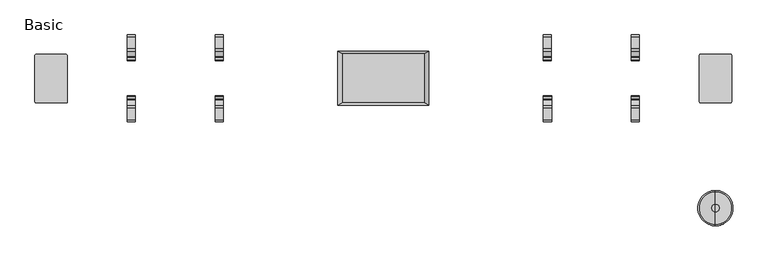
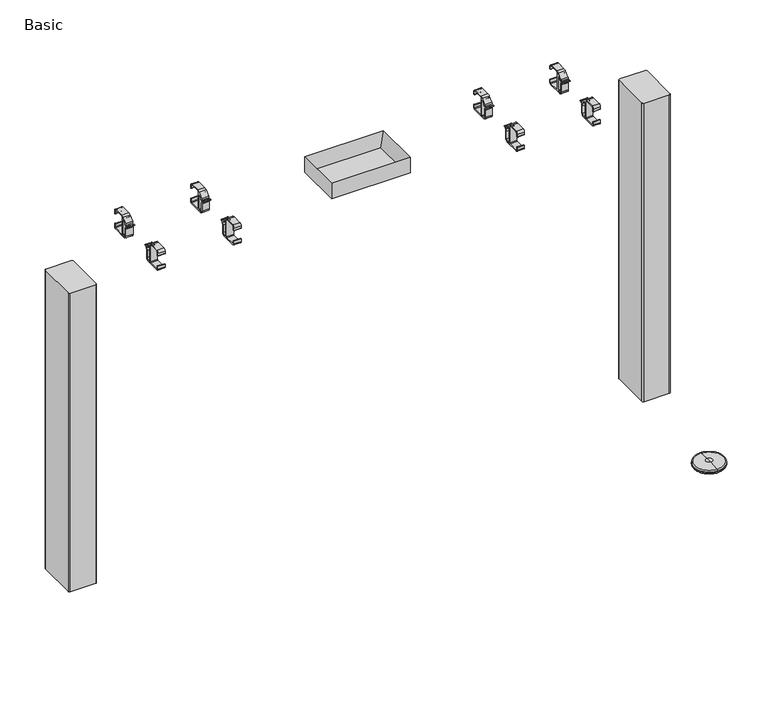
"""IFC4 building model written with IfcOpenShell, lengths in millimetres: furniture geometry, Steelcase Turnstone - Bivi - T Base : Basic."""

from ifc_helpers import new_model, si_unit, point, frame, frame_2d, origin, place, context, project, spatial, polyline, circle_curve, ellipse_curve, trimmed, segment, composite_curve, outline, extrude, faceted_brep, source, transform, mapped, element, save
from ifc_brep_helpers import plane_surface, cylinder_surface, revolved_surface, advanced_brep


def basic_6c72995a(model_context):
    return source(origin(), model_context, "Body", "SolidModel", [
        extrude(outline(composite_curve([segment(trimmed(circle_curve(frame_2d((466.9441449, -139.8062192)), 2.9999955), [point((469.9441404, -139.8062192))], [point((466.9441476, -142.8062147))], False, "CARTESIAN"), True, "CONTINUOUS"), segment(polyline([(466.9441476, -142.8062147), (413.0623335, -142.8062147)]), True, "CONTINUOUS"), segment(trimmed(circle_curve(frame_2d((413.0623308, -139.8062267)), 2.9999881), [point((413.0623335, -142.8062147))], [point((410.0623427, -139.8062267))], False, "CARTESIAN"), True, "CONTINUOUS"), segment(polyline([(410.0623427, -139.8062267), (410.0623427, -55.8062406)]), True, "CONTINUOUS"), segment(trimmed(circle_curve(frame_2d((413.0623507, -55.8062406)), 3.0000079), [point((410.0623427, -55.8062406))], [point((413.0623441, -52.8062327))], False, "CARTESIAN"), True, "CONTINUOUS"), segment(polyline([(413.0623441, -52.8062327), (466.944164, -52.8062327)]), True, "CONTINUOUS"), segment(trimmed(circle_curve(frame_2d((466.944164, -55.8062091)), 2.9999764), [point((466.944164, -52.8062327))], [point((469.9441404, -55.8062091))], False, "CARTESIAN"), True, "CONTINUOUS"), segment(polyline([(469.9441404, -55.8062091), (469.9441404, -139.8062192)]), True, "CONTINUOUS")], self_intersect=False)), frame((0.0, 0.0, 32.9997018), z_axis=(0.0, 0.0, 1.0), x_axis=(1.0, 0.0, 0.0)), (0.0, 0.0, 1.0), 673.400907),
        extrude(outline(composite_curve([segment(polyline([(-814.2431554, -140.2273439), (-814.2431508, -55.5044156)]), True, "CONTINUOUS"), segment(trimmed(circle_curve(frame_2d((-811.5449196, -55.5044158)), 2.6982312), [point((-814.2431508, -55.5044156))], [point((-811.5449196, -52.8061846))], False, "CARTESIAN"), True, "CONTINUOUS"), segment(polyline([(-811.5449196, -52.8061846), (-758.6162966, -52.8061846)]), True, "CONTINUOUS"), segment(trimmed(circle_curve(frame_2d((-758.6162966, -57.1799025)), 4.3737179), [point((-758.6162966, -52.8061846))], [point((-754.2425787, -57.1799025))], False, "CARTESIAN"), True, "CONTINUOUS"), segment(polyline([(-754.2425787, -57.1799025), (-754.2425787, -140.352824)]), True, "CONTINUOUS"), segment(trimmed(circle_curve(frame_2d((-756.8432707, -140.2011003)), 2.605114), [point((-754.2425787, -140.352824))], [point((-756.8432707, -142.8062143))], False, "CARTESIAN"), True, "CONTINUOUS"), segment(polyline([(-756.8432707, -142.8062143), (-811.6642851, -142.8062143)]), True, "CONTINUOUS"), segment(trimmed(circle_curve(frame_2d((-811.6642851, -140.227344)), 2.5788703), [point((-811.6642851, -142.8062143))], [point((-814.2431554, -140.2273439))], False, "CARTESIAN"), True, "CONTINUOUS")], self_intersect=False)), frame((0.0, 0.0, 32.9997018), z_axis=(0.0, 0.0, 1.0), x_axis=(1.0, 0.0, 0.0)), (0.0, 0.0, 1.0), 673.400907),
        extrude(outline(composite_curve([segment(trimmed(circle_curve(frame_2d((-65.7391624, 742.1239361)), 6.2415612), [point((-59.4976013, 742.1239361))], [point((-64.5659326, 748.2542393))], True, "CARTESIAN"), True, "CONTINUOUS"), segment(trimmed(circle_curve(frame_2d((-64.3721846, 749.2666017)), 1.0307357), [point((-64.5659326, 748.2542393))], [point((-64.1869392, 750.2805545))], False, "CARTESIAN"), True, "CONTINUOUS"), segment(trimmed(circle_curve(frame_2d((-65.6771233, 742.1239361)), 8.2916266), [point((-64.1869392, 750.2805545))], [point((-57.3854967, 742.1239361))], False, "CARTESIAN"), True, "CONTINUOUS"), segment(polyline([(-57.3854967, 742.1239361), (-57.3854967, 725.3624107)]), True, "CONTINUOUS"), segment(trimmed(circle_curve(frame_2d((-53.4972048, 725.3624107)), 3.8882919), [point((-57.3854967, 725.3624107))], [point((-53.4414787, 721.4745182))], True, "CARTESIAN"), True, "CONTINUOUS"), segment(polyline([(-53.4414787, 721.4745182), (-48.5753711, 721.4745182)]), True, "CONTINUOUS"), segment(trimmed(circle_curve(frame_2d((-48.5753711, 722.558435)), 1.0839168), [point((-48.5753711, 721.4745182))], [point((-47.4914543, 722.558435))], True, "CARTESIAN"), True, "CONTINUOUS"), segment(polyline([(-47.4914543, 722.558435), (-47.4914543, 756.2135585)]), True, "CONTINUOUS"), segment(trimmed(circle_curve(frame_2d((-49.0315964, 756.2135585)), 1.5401421), [point((-47.4914543, 756.2135585))], [point((-50.0681586, 757.3526706))], True, "CARTESIAN"), True, "CONTINUOUS"), segment(polyline([(-50.0681586, 757.3526706), (-54.4475369, 753.3675508)]), True, "CONTINUOUS"), segment(trimmed(circle_curve(frame_2d((-53.8610141, 752.7230017)), 0.8714657), [point((-54.4475369, 753.3675508))], [point((-54.6447876, 752.342014))], True, "CARTESIAN"), True, "CONTINUOUS"), segment(trimmed(circle_curve(frame_2d((-56.5369304, 751.4222544)), 2.1038446), [point((-54.6447876, 752.342014))], [point((-57.8009025, 753.1040798))], False, "CARTESIAN"), True, "CONTINUOUS"), segment(polyline([(-57.8009025, 753.1040798), (-48.4315057, 761.5182067)]), True, "CONTINUOUS"), segment(trimmed(circle_curve(frame_2d((-43.0316889, 755.5053397)), 8.0816206), [point((-48.4315057, 761.5182067))], [point((-43.0316889, 763.5869603))], False, "CARTESIAN"), True, "CONTINUOUS"), segment(polyline([(-43.0316889, 763.5869603), (-21.684555, 763.5869603)]), True, "CONTINUOUS"), segment(trimmed(circle_curve(frame_2d((-22.1935929, 758.8624493)), 4.7518548), [point((-21.684555, 763.5869603))], [point((-17.4417381, 758.8624493))], False, "CARTESIAN"), True, "CONTINUOUS"), segment(polyline([(-17.4417381, 758.8624493), (-17.4417381, 753.5063472)]), True, "CONTINUOUS"), segment(trimmed(circle_curve(frame_2d((-18.5067894, 753.5063472)), 1.0650513), [point((-17.4417381, 753.5063472))], [point((-19.5718406, 753.5063472))], False, "CARTESIAN"), True, "CONTINUOUS"), segment(polyline([(-19.5718406, 753.5063472), (-19.5718406, 759.3038862)]), True, "CONTINUOUS"), segment(trimmed(circle_curve(frame_2d((-22.6679544, 759.3038862)), 3.0961138), [point((-19.5718406, 759.3038862))], [point((-22.6679544, 762.4))], True, "CARTESIAN"), True, "CONTINUOUS"), segment(polyline([(-22.6679544, 762.4), (-43.0035831, 762.4)]), True, "CONTINUOUS"), segment(trimmed(circle_curve(frame_2d((-43.0035831, 759.897389)), 2.502611), [point((-43.0035831, 762.4))], [point((-45.5061941, 759.897389))], True, "CARTESIAN"), True, "CONTINUOUS"), segment(polyline([(-45.5061941, 759.897389), (-45.5061941, 722.9613964)]), True, "CONTINUOUS"), segment(trimmed(circle_curve(frame_2d((-44.0445082, 722.9613964)), 1.4616859), [point((-45.5061941, 722.9613964))], [point((-44.0445082, 721.4997105))], True, "CARTESIAN"), True, "CONTINUOUS"), segment(polyline([(-44.0445082, 721.4997105), (-21.0231187, 721.4997105)]), True, "CONTINUOUS"), segment(trimmed(circle_curve(frame_2d((-21.0231187, 722.9509885)), 1.451278), [point((-21.0231187, 721.4997105))], [point((-19.5718406, 722.9509885))], True, "CARTESIAN"), True, "CONTINUOUS"), segment(polyline([(-19.5718406, 722.9509885), (-19.5718406, 729.2789837), (-17.4417381, 729.2789837), (-17.4417381, 723.3602118)]), True, "CONTINUOUS"), segment(trimmed(circle_curve(frame_2d((-21.439512, 723.3602118)), 3.997774), [point((-17.4417381, 723.3602118))], [point((-21.439512, 719.3624378))], False, "CARTESIAN"), True, "CONTINUOUS"), segment(polyline([(-21.439512, 719.3624378), (-53.4414787, 719.3624378)]), True, "CONTINUOUS"), segment(trimmed(circle_curve(frame_2d((-53.4414787, 725.4188231)), 6.0563853), [point((-53.4414787, 719.3624378))], [point((-59.4976013, 725.3624107))], False, "CARTESIAN"), True, "CONTINUOUS"), segment(polyline([(-59.4976013, 725.3624107), (-59.4976013, 742.1239361)]), True, "CONTINUOUS")], self_intersect=False)), frame((-644.2435707, 0.0, 0.0), z_axis=(1.0, 0.0, 0.0), x_axis=(0.0, 1.0, 0.0)), (0.0, 0.0, 1.0), 15.24),
        extrude(outline(composite_curve([segment(polyline([(-135.6005693, 742.1239361), (-135.6005693, 725.3624107)]), True, "CONTINUOUS"), segment(trimmed(circle_curve(frame_2d((-141.6566919, 725.4188231)), 6.0563853), [point((-135.6005693, 725.3624107))], [point((-141.6566919, 719.3624378))], False, "CARTESIAN"), True, "CONTINUOUS"), segment(polyline([(-141.6566919, 719.3624378), (-173.6586586, 719.3624378)]), True, "CONTINUOUS"), segment(trimmed(circle_curve(frame_2d((-173.6586586, 723.3602118)), 3.997774), [point((-173.6586586, 719.3624378))], [point((-177.6564325, 723.3602118))], False, "CARTESIAN"), True, "CONTINUOUS"), segment(polyline([(-177.6564325, 723.3602118), (-177.6564325, 729.2789837), (-175.52633, 729.2789837), (-175.52633, 722.9509885)]), True, "CONTINUOUS"), segment(trimmed(circle_curve(frame_2d((-174.0750519, 722.9509885)), 1.451278), [point((-175.52633, 722.9509885))], [point((-174.0750519, 721.4997105))], True, "CARTESIAN"), True, "CONTINUOUS"), segment(polyline([(-174.0750519, 721.4997105), (-151.0536624, 721.4997105)]), True, "CONTINUOUS"), segment(trimmed(circle_curve(frame_2d((-151.0536624, 722.9613964)), 1.4616859), [point((-151.0536624, 721.4997105))], [point((-149.5919765, 722.9613964))], True, "CARTESIAN"), True, "CONTINUOUS"), segment(polyline([(-149.5919765, 722.9613964), (-149.5919765, 759.897389)]), True, "CONTINUOUS"), segment(trimmed(circle_curve(frame_2d((-152.0945875, 759.897389)), 2.502611), [point((-149.5919765, 759.897389))], [point((-152.0945875, 762.4))], True, "CARTESIAN"), True, "CONTINUOUS"), segment(polyline([(-152.0945875, 762.4), (-172.4302162, 762.4)]), True, "CONTINUOUS"), segment(trimmed(circle_curve(frame_2d((-172.4302162, 759.3038862)), 3.0961138), [point((-172.4302162, 762.4))], [point((-175.52633, 759.3038862))], True, "CARTESIAN"), True, "CONTINUOUS"), segment(polyline([(-175.52633, 759.3038862), (-175.52633, 753.5063472)]), True, "CONTINUOUS"), segment(trimmed(circle_curve(frame_2d((-176.5913812, 753.5063472)), 1.0650513), [point((-175.52633, 753.5063472))], [point((-177.6564325, 753.5063472))], False, "CARTESIAN"), True, "CONTINUOUS"), segment(polyline([(-177.6564325, 753.5063472), (-177.6564325, 758.8624493)]), True, "CONTINUOUS"), segment(trimmed(circle_curve(frame_2d((-172.9045777, 758.8624493)), 4.7518548), [point((-177.6564325, 758.8624493))], [point((-173.4136156, 763.5869603))], False, "CARTESIAN"), True, "CONTINUOUS"), segment(polyline([(-173.4136156, 763.5869603), (-152.0664817, 763.5869603)]), True, "CONTINUOUS"), segment(trimmed(circle_curve(frame_2d((-152.0664817, 755.5053397)), 8.0816206), [point((-152.0664817, 763.5869603))], [point((-146.6666649, 761.5182067))], False, "CARTESIAN"), True, "CONTINUOUS"), segment(polyline([(-146.6666649, 761.5182067), (-137.2972681, 753.1040798)]), True, "CONTINUOUS"), segment(trimmed(circle_curve(frame_2d((-138.5612402, 751.4222544)), 2.1038446), [point((-137.2972681, 753.1040798))], [point((-140.453383, 752.342014))], False, "CARTESIAN"), True, "CONTINUOUS"), segment(trimmed(circle_curve(frame_2d((-141.2371565, 752.7230017)), 0.8714657), [point((-140.453383, 752.342014))], [point((-140.6506337, 753.3675508))], True, "CARTESIAN"), True, "CONTINUOUS"), segment(polyline([(-140.6506337, 753.3675508), (-145.030012, 757.3526706)]), True, "CONTINUOUS"), segment(trimmed(circle_curve(frame_2d((-146.0665742, 756.2135585)), 1.5401421), [point((-145.030012, 757.3526706))], [point((-147.6067163, 756.2135585))], True, "CARTESIAN"), True, "CONTINUOUS"), segment(polyline([(-147.6067163, 756.2135585), (-147.6067163, 722.558435)]), True, "CONTINUOUS"), segment(trimmed(circle_curve(frame_2d((-146.5227995, 722.558435)), 1.0839168), [point((-147.6067163, 722.558435))], [point((-146.5227995, 721.4745182))], True, "CARTESIAN"), True, "CONTINUOUS"), segment(polyline([(-146.5227995, 721.4745182), (-141.6566919, 721.4745182)]), True, "CONTINUOUS"), segment(trimmed(circle_curve(frame_2d((-141.6009658, 725.3624107)), 3.8882919), [point((-141.6566919, 721.4745182))], [point((-137.7126739, 725.3624107))], True, "CARTESIAN"), True, "CONTINUOUS"), segment(polyline([(-137.7126739, 725.3624107), (-137.7126739, 742.1239361)]), True, "CONTINUOUS"), segment(trimmed(circle_curve(frame_2d((-129.4210473, 742.1239361)), 8.2916266), [point((-137.7126739, 742.1239361))], [point((-130.9112314, 750.2805545))], False, "CARTESIAN"), True, "CONTINUOUS"), segment(trimmed(circle_curve(frame_2d((-130.725986, 749.2666017)), 1.0307357), [point((-130.9112314, 750.2805545))], [point((-130.532238, 748.2542393))], False, "CARTESIAN"), True, "CONTINUOUS"), segment(trimmed(circle_curve(frame_2d((-129.3590082, 742.1239361)), 6.2415612), [point((-130.532238, 748.2542393))], [point((-135.6005693, 742.1239361))], True, "CARTESIAN"), True, "CONTINUOUS")], self_intersect=False)), frame((-644.2435707, 0.0, 0.0), z_axis=(1.0, 0.0, 0.0), x_axis=(0.0, 1.0, 0.0)), (0.0, 0.0, 1.0), 15.24),
        extrude(outline(composite_curve([segment(trimmed(circle_curve(frame_2d((-65.7391624, 742.1239361)), 6.2415612), [point((-59.4976013, 742.1239361))], [point((-64.5659326, 748.2542393))], True, "CARTESIAN"), True, "CONTINUOUS"), segment(trimmed(circle_curve(frame_2d((-64.3721846, 749.2666017)), 1.0307357), [point((-64.5659326, 748.2542393))], [point((-64.1869392, 750.2805545))], False, "CARTESIAN"), True, "CONTINUOUS"), segment(trimmed(circle_curve(frame_2d((-65.6771233, 742.1239361)), 8.2916266), [point((-64.1869392, 750.2805545))], [point((-57.3854967, 742.1239361))], False, "CARTESIAN"), True, "CONTINUOUS"), segment(polyline([(-57.3854967, 742.1239361), (-57.3854967, 725.3624107)]), True, "CONTINUOUS"), segment(trimmed(circle_curve(frame_2d((-53.4972048, 725.3624107)), 3.8882919), [point((-57.3854967, 725.3624107))], [point((-53.4414787, 721.4745182))], True, "CARTESIAN"), True, "CONTINUOUS"), segment(polyline([(-53.4414787, 721.4745182), (-48.5753711, 721.4745182)]), True, "CONTINUOUS"), segment(trimmed(circle_curve(frame_2d((-48.5753711, 722.558435)), 1.0839168), [point((-48.5753711, 721.4745182))], [point((-47.4914543, 722.558435))], True, "CARTESIAN"), True, "CONTINUOUS"), segment(polyline([(-47.4914543, 722.558435), (-47.4914543, 756.2135585)]), True, "CONTINUOUS"), segment(trimmed(circle_curve(frame_2d((-49.0315964, 756.2135585)), 1.5401421), [point((-47.4914543, 756.2135585))], [point((-50.0681586, 757.3526706))], True, "CARTESIAN"), True, "CONTINUOUS"), segment(polyline([(-50.0681586, 757.3526706), (-54.4475369, 753.3675508)]), True, "CONTINUOUS"), segment(trimmed(circle_curve(frame_2d((-53.8610141, 752.7230017)), 0.8714657), [point((-54.4475369, 753.3675508))], [point((-54.6447876, 752.342014))], True, "CARTESIAN"), True, "CONTINUOUS"), segment(trimmed(circle_curve(frame_2d((-56.5369304, 751.4222544)), 2.1038446), [point((-54.6447876, 752.342014))], [point((-57.8009025, 753.1040798))], False, "CARTESIAN"), True, "CONTINUOUS"), segment(polyline([(-57.8009025, 753.1040798), (-48.4315057, 761.5182067)]), True, "CONTINUOUS"), segment(trimmed(circle_curve(frame_2d((-43.0316889, 755.5053397)), 8.0816206), [point((-48.4315057, 761.5182067))], [point((-43.0316889, 763.5869603))], False, "CARTESIAN"), True, "CONTINUOUS"), segment(polyline([(-43.0316889, 763.5869603), (-21.684555, 763.5869603)]), True, "CONTINUOUS"), segment(trimmed(circle_curve(frame_2d((-22.1935929, 758.8624493)), 4.7518548), [point((-21.684555, 763.5869603))], [point((-17.4417381, 758.8624493))], False, "CARTESIAN"), True, "CONTINUOUS"), segment(polyline([(-17.4417381, 758.8624493), (-17.4417381, 753.5063472)]), True, "CONTINUOUS"), segment(trimmed(circle_curve(frame_2d((-18.5067894, 753.5063472)), 1.0650513), [point((-17.4417381, 753.5063472))], [point((-19.5718406, 753.5063472))], False, "CARTESIAN"), True, "CONTINUOUS"), segment(polyline([(-19.5718406, 753.5063472), (-19.5718406, 759.3038862)]), True, "CONTINUOUS"), segment(trimmed(circle_curve(frame_2d((-22.6679544, 759.3038862)), 3.0961138), [point((-19.5718406, 759.3038862))], [point((-22.6679544, 762.4))], True, "CARTESIAN"), True, "CONTINUOUS"), segment(polyline([(-22.6679544, 762.4), (-43.0035831, 762.4)]), True, "CONTINUOUS"), segment(trimmed(circle_curve(frame_2d((-43.0035831, 759.897389)), 2.502611), [point((-43.0035831, 762.4))], [point((-45.5061941, 759.897389))], True, "CARTESIAN"), True, "CONTINUOUS"), segment(polyline([(-45.5061941, 759.897389), (-45.5061941, 722.9613964)]), True, "CONTINUOUS"), segment(trimmed(circle_curve(frame_2d((-44.0445082, 722.9613964)), 1.4616859), [point((-45.5061941, 722.9613964))], [point((-44.0445082, 721.4997105))], True, "CARTESIAN"), True, "CONTINUOUS"), segment(polyline([(-44.0445082, 721.4997105), (-21.0231187, 721.4997105)]), True, "CONTINUOUS"), segment(trimmed(circle_curve(frame_2d((-21.0231187, 722.9509885)), 1.451278), [point((-21.0231187, 721.4997105))], [point((-19.5718406, 722.9509885))], True, "CARTESIAN"), True, "CONTINUOUS"), segment(polyline([(-19.5718406, 722.9509885), (-19.5718406, 729.2789837), (-17.4417381, 729.2789837), (-17.4417381, 723.3602118)]), True, "CONTINUOUS"), segment(trimmed(circle_curve(frame_2d((-21.439512, 723.3602118)), 3.997774), [point((-17.4417381, 723.3602118))], [point((-21.439512, 719.3624378))], False, "CARTESIAN"), True, "CONTINUOUS"), segment(polyline([(-21.439512, 719.3624378), (-53.4414787, 719.3624378)]), True, "CONTINUOUS"), segment(trimmed(circle_curve(frame_2d((-53.4414787, 725.4188231)), 6.0563853), [point((-53.4414787, 719.3624378))], [point((-59.4976013, 725.3624107))], False, "CARTESIAN"), True, "CONTINUOUS"), segment(polyline([(-59.4976013, 725.3624107), (-59.4976013, 742.1239361)]), True, "CONTINUOUS")], self_intersect=False)), frame((-481.9950023, 0.0, 0.0), z_axis=(1.0, 0.0, 0.0), x_axis=(0.0, 1.0, 0.0)), (0.0, 0.0, 1.0), 15.24),
        extrude(outline(composite_curve([segment(polyline([(-135.6005693, 742.1239361), (-135.6005693, 725.3624107)]), True, "CONTINUOUS"), segment(trimmed(circle_curve(frame_2d((-141.6566919, 725.4188231)), 6.0563853), [point((-135.6005693, 725.3624107))], [point((-141.6566919, 719.3624378))], False, "CARTESIAN"), True, "CONTINUOUS"), segment(polyline([(-141.6566919, 719.3624378), (-173.6586586, 719.3624378)]), True, "CONTINUOUS"), segment(trimmed(circle_curve(frame_2d((-173.6586586, 723.3602118)), 3.997774), [point((-173.6586586, 719.3624378))], [point((-177.6564325, 723.3602118))], False, "CARTESIAN"), True, "CONTINUOUS"), segment(polyline([(-177.6564325, 723.3602118), (-177.6564325, 729.2789837), (-175.52633, 729.2789837), (-175.52633, 722.9509885)]), True, "CONTINUOUS"), segment(trimmed(circle_curve(frame_2d((-174.0750519, 722.9509885)), 1.451278), [point((-175.52633, 722.9509885))], [point((-174.0750519, 721.4997105))], True, "CARTESIAN"), True, "CONTINUOUS"), segment(polyline([(-174.0750519, 721.4997105), (-151.0536624, 721.4997105)]), True, "CONTINUOUS"), segment(trimmed(circle_curve(frame_2d((-151.0536624, 722.9613964)), 1.4616859), [point((-151.0536624, 721.4997105))], [point((-149.5919765, 722.9613964))], True, "CARTESIAN"), True, "CONTINUOUS"), segment(polyline([(-149.5919765, 722.9613964), (-149.5919765, 759.897389)]), True, "CONTINUOUS"), segment(trimmed(circle_curve(frame_2d((-152.0945875, 759.897389)), 2.502611), [point((-149.5919765, 759.897389))], [point((-152.0945875, 762.4))], True, "CARTESIAN"), True, "CONTINUOUS"), segment(polyline([(-152.0945875, 762.4), (-172.4302162, 762.4)]), True, "CONTINUOUS"), segment(trimmed(circle_curve(frame_2d((-172.4302162, 759.3038862)), 3.0961138), [point((-172.4302162, 762.4))], [point((-175.52633, 759.3038862))], True, "CARTESIAN"), True, "CONTINUOUS"), segment(polyline([(-175.52633, 759.3038862), (-175.52633, 753.5063472)]), True, "CONTINUOUS"), segment(trimmed(circle_curve(frame_2d((-176.5913812, 753.5063472)), 1.0650513), [point((-175.52633, 753.5063472))], [point((-177.6564325, 753.5063472))], False, "CARTESIAN"), True, "CONTINUOUS"), segment(polyline([(-177.6564325, 753.5063472), (-177.6564325, 758.8624493)]), True, "CONTINUOUS"), segment(trimmed(circle_curve(frame_2d((-172.9045777, 758.8624493)), 4.7518548), [point((-177.6564325, 758.8624493))], [point((-173.4136156, 763.5869603))], False, "CARTESIAN"), True, "CONTINUOUS"), segment(polyline([(-173.4136156, 763.5869603), (-152.0664817, 763.5869603)]), True, "CONTINUOUS"), segment(trimmed(circle_curve(frame_2d((-152.0664817, 755.5053397)), 8.0816206), [point((-152.0664817, 763.5869603))], [point((-146.6666649, 761.5182067))], False, "CARTESIAN"), True, "CONTINUOUS"), segment(polyline([(-146.6666649, 761.5182067), (-137.2972681, 753.1040798)]), True, "CONTINUOUS"), segment(trimmed(circle_curve(frame_2d((-138.5612402, 751.4222544)), 2.1038446), [point((-137.2972681, 753.1040798))], [point((-140.453383, 752.342014))], False, "CARTESIAN"), True, "CONTINUOUS"), segment(trimmed(circle_curve(frame_2d((-141.2371565, 752.7230017)), 0.8714657), [point((-140.453383, 752.342014))], [point((-140.6506337, 753.3675508))], True, "CARTESIAN"), True, "CONTINUOUS"), segment(polyline([(-140.6506337, 753.3675508), (-145.030012, 757.3526706)]), True, "CONTINUOUS"), segment(trimmed(circle_curve(frame_2d((-146.0665742, 756.2135585)), 1.5401421), [point((-145.030012, 757.3526706))], [point((-147.6067163, 756.2135585))], True, "CARTESIAN"), True, "CONTINUOUS"), segment(polyline([(-147.6067163, 756.2135585), (-147.6067163, 722.558435)]), True, "CONTINUOUS"), segment(trimmed(circle_curve(frame_2d((-146.5227995, 722.558435)), 1.0839168), [point((-147.6067163, 722.558435))], [point((-146.5227995, 721.4745182))], True, "CARTESIAN"), True, "CONTINUOUS"), segment(polyline([(-146.5227995, 721.4745182), (-141.6566919, 721.4745182)]), True, "CONTINUOUS"), segment(trimmed(circle_curve(frame_2d((-141.6009658, 725.3624107)), 3.8882919), [point((-141.6566919, 721.4745182))], [point((-137.7126739, 725.3624107))], True, "CARTESIAN"), True, "CONTINUOUS"), segment(polyline([(-137.7126739, 725.3624107), (-137.7126739, 742.1239361)]), True, "CONTINUOUS"), segment(trimmed(circle_curve(frame_2d((-129.4210473, 742.1239361)), 8.2916266), [point((-137.7126739, 742.1239361))], [point((-130.9112314, 750.2805545))], False, "CARTESIAN"), True, "CONTINUOUS"), segment(trimmed(circle_curve(frame_2d((-130.725986, 749.2666017)), 1.0307357), [point((-130.9112314, 750.2805545))], [point((-130.532238, 748.2542393))], False, "CARTESIAN"), True, "CONTINUOUS"), segment(trimmed(circle_curve(frame_2d((-129.3590082, 742.1239361)), 6.2415612), [point((-130.532238, 748.2542393))], [point((-135.6005693, 742.1239361))], True, "CARTESIAN"), True, "CONTINUOUS")], self_intersect=False)), frame((-481.9950023, 0.0, 0.0), z_axis=(1.0, 0.0, 0.0), x_axis=(0.0, 1.0, 0.0)), (0.0, 0.0, 1.0), 15.24),
        extrude(outline(composite_curve([segment(trimmed(circle_curve(frame_2d((-65.7391624, 742.1239361)), 6.2415612), [point((-59.4976013, 742.1239361))], [point((-64.5659326, 748.2542393))], True, "CARTESIAN"), True, "CONTINUOUS"), segment(trimmed(circle_curve(frame_2d((-64.3721846, 749.2666017)), 1.0307357), [point((-64.5659326, 748.2542393))], [point((-64.1869392, 750.2805545))], False, "CARTESIAN"), True, "CONTINUOUS"), segment(trimmed(circle_curve(frame_2d((-65.6771233, 742.1239361)), 8.2916266), [point((-64.1869392, 750.2805545))], [point((-57.3854967, 742.1239361))], False, "CARTESIAN"), True, "CONTINUOUS"), segment(polyline([(-57.3854967, 742.1239361), (-57.3854967, 725.3624107)]), True, "CONTINUOUS"), segment(trimmed(circle_curve(frame_2d((-53.4972048, 725.3624107)), 3.8882919), [point((-57.3854967, 725.3624107))], [point((-53.4414787, 721.4745182))], True, "CARTESIAN"), True, "CONTINUOUS"), segment(polyline([(-53.4414787, 721.4745182), (-48.5753711, 721.4745182)]), True, "CONTINUOUS"), segment(trimmed(circle_curve(frame_2d((-48.5753711, 722.558435)), 1.0839168), [point((-48.5753711, 721.4745182))], [point((-47.4914543, 722.558435))], True, "CARTESIAN"), True, "CONTINUOUS"), segment(polyline([(-47.4914543, 722.558435), (-47.4914543, 756.2135585)]), True, "CONTINUOUS"), segment(trimmed(circle_curve(frame_2d((-49.0315964, 756.2135585)), 1.5401421), [point((-47.4914543, 756.2135585))], [point((-50.0681586, 757.3526706))], True, "CARTESIAN"), True, "CONTINUOUS"), segment(polyline([(-50.0681586, 757.3526706), (-54.4475369, 753.3675508)]), True, "CONTINUOUS"), segment(trimmed(circle_curve(frame_2d((-53.8610141, 752.7230017)), 0.8714657), [point((-54.4475369, 753.3675508))], [point((-54.6447876, 752.342014))], True, "CARTESIAN"), True, "CONTINUOUS"), segment(trimmed(circle_curve(frame_2d((-56.5369304, 751.4222544)), 2.1038446), [point((-54.6447876, 752.342014))], [point((-57.8009025, 753.1040798))], False, "CARTESIAN"), True, "CONTINUOUS"), segment(polyline([(-57.8009025, 753.1040798), (-48.4315057, 761.5182067)]), True, "CONTINUOUS"), segment(trimmed(circle_curve(frame_2d((-43.0316889, 755.5053397)), 8.0816206), [point((-48.4315057, 761.5182067))], [point((-43.0316889, 763.5869603))], False, "CARTESIAN"), True, "CONTINUOUS"), segment(polyline([(-43.0316889, 763.5869603), (-21.684555, 763.5869603)]), True, "CONTINUOUS"), segment(trimmed(circle_curve(frame_2d((-22.1935929, 758.8624493)), 4.7518548), [point((-21.684555, 763.5869603))], [point((-17.4417381, 758.8624493))], False, "CARTESIAN"), True, "CONTINUOUS"), segment(polyline([(-17.4417381, 758.8624493), (-17.4417381, 753.5063472)]), True, "CONTINUOUS"), segment(trimmed(circle_curve(frame_2d((-18.5067894, 753.5063472)), 1.0650513), [point((-17.4417381, 753.5063472))], [point((-19.5718406, 753.5063472))], False, "CARTESIAN"), True, "CONTINUOUS"), segment(polyline([(-19.5718406, 753.5063472), (-19.5718406, 759.3038862)]), True, "CONTINUOUS"), segment(trimmed(circle_curve(frame_2d((-22.6679544, 759.3038862)), 3.0961138), [point((-19.5718406, 759.3038862))], [point((-22.6679544, 762.4))], True, "CARTESIAN"), True, "CONTINUOUS"), segment(polyline([(-22.6679544, 762.4), (-43.0035831, 762.4)]), True, "CONTINUOUS"), segment(trimmed(circle_curve(frame_2d((-43.0035831, 759.897389)), 2.502611), [point((-43.0035831, 762.4))], [point((-45.5061941, 759.897389))], True, "CARTESIAN"), True, "CONTINUOUS"), segment(polyline([(-45.5061941, 759.897389), (-45.5061941, 722.9613964)]), True, "CONTINUOUS"), segment(trimmed(circle_curve(frame_2d((-44.0445082, 722.9613964)), 1.4616859), [point((-45.5061941, 722.9613964))], [point((-44.0445082, 721.4997105))], True, "CARTESIAN"), True, "CONTINUOUS"), segment(polyline([(-44.0445082, 721.4997105), (-21.0231187, 721.4997105)]), True, "CONTINUOUS"), segment(trimmed(circle_curve(frame_2d((-21.0231187, 722.9509885)), 1.451278), [point((-21.0231187, 721.4997105))], [point((-19.5718406, 722.9509885))], True, "CARTESIAN"), True, "CONTINUOUS"), segment(polyline([(-19.5718406, 722.9509885), (-19.5718406, 729.2789837), (-17.4417381, 729.2789837), (-17.4417381, 723.3602118)]), True, "CONTINUOUS"), segment(trimmed(circle_curve(frame_2d((-21.439512, 723.3602118)), 3.997774), [point((-17.4417381, 723.3602118))], [point((-21.439512, 719.3624378))], False, "CARTESIAN"), True, "CONTINUOUS"), segment(polyline([(-21.439512, 719.3624378), (-53.4414787, 719.3624378)]), True, "CONTINUOUS"), segment(trimmed(circle_curve(frame_2d((-53.4414787, 725.4188231)), 6.0563853), [point((-53.4414787, 719.3624378))], [point((-59.4976013, 725.3624107))], False, "CARTESIAN"), True, "CONTINUOUS"), segment(polyline([(-59.4976013, 725.3624107), (-59.4976013, 742.1239361)]), True, "CONTINUOUS")], self_intersect=False)), frame((284.5631648, 0.0, 0.0), z_axis=(1.0, 0.0, 0.0), x_axis=(0.0, 1.0, 0.0)), (0.0, 0.0, 1.0), 15.24),
        extrude(outline(composite_curve([segment(polyline([(-135.6005693, 742.1239361), (-135.6005693, 725.3624107)]), True, "CONTINUOUS"), segment(trimmed(circle_curve(frame_2d((-141.6566919, 725.4188231)), 6.0563853), [point((-135.6005693, 725.3624107))], [point((-141.6566919, 719.3624378))], False, "CARTESIAN"), True, "CONTINUOUS"), segment(polyline([(-141.6566919, 719.3624378), (-173.6586586, 719.3624378)]), True, "CONTINUOUS"), segment(trimmed(circle_curve(frame_2d((-173.6586586, 723.3602118)), 3.997774), [point((-173.6586586, 719.3624378))], [point((-177.6564325, 723.3602118))], False, "CARTESIAN"), True, "CONTINUOUS"), segment(polyline([(-177.6564325, 723.3602118), (-177.6564325, 729.2789837), (-175.52633, 729.2789837), (-175.52633, 722.9509885)]), True, "CONTINUOUS"), segment(trimmed(circle_curve(frame_2d((-174.0750519, 722.9509885)), 1.451278), [point((-175.52633, 722.9509885))], [point((-174.0750519, 721.4997105))], True, "CARTESIAN"), True, "CONTINUOUS"), segment(polyline([(-174.0750519, 721.4997105), (-151.0536624, 721.4997105)]), True, "CONTINUOUS"), segment(trimmed(circle_curve(frame_2d((-151.0536624, 722.9613964)), 1.4616859), [point((-151.0536624, 721.4997105))], [point((-149.5919765, 722.9613964))], True, "CARTESIAN"), True, "CONTINUOUS"), segment(polyline([(-149.5919765, 722.9613964), (-149.5919765, 759.897389)]), True, "CONTINUOUS"), segment(trimmed(circle_curve(frame_2d((-152.0945875, 759.897389)), 2.502611), [point((-149.5919765, 759.897389))], [point((-152.0945875, 762.4))], True, "CARTESIAN"), True, "CONTINUOUS"), segment(polyline([(-152.0945875, 762.4), (-172.4302162, 762.4)]), True, "CONTINUOUS"), segment(trimmed(circle_curve(frame_2d((-172.4302162, 759.3038862)), 3.0961138), [point((-172.4302162, 762.4))], [point((-175.52633, 759.3038862))], True, "CARTESIAN"), True, "CONTINUOUS"), segment(polyline([(-175.52633, 759.3038862), (-175.52633, 753.5063472)]), True, "CONTINUOUS"), segment(trimmed(circle_curve(frame_2d((-176.5913812, 753.5063472)), 1.0650513), [point((-175.52633, 753.5063472))], [point((-177.6564325, 753.5063472))], False, "CARTESIAN"), True, "CONTINUOUS"), segment(polyline([(-177.6564325, 753.5063472), (-177.6564325, 758.8624493)]), True, "CONTINUOUS"), segment(trimmed(circle_curve(frame_2d((-172.9045777, 758.8624493)), 4.7518548), [point((-177.6564325, 758.8624493))], [point((-173.4136156, 763.5869603))], False, "CARTESIAN"), True, "CONTINUOUS"), segment(polyline([(-173.4136156, 763.5869603), (-152.0664817, 763.5869603)]), True, "CONTINUOUS"), segment(trimmed(circle_curve(frame_2d((-152.0664817, 755.5053397)), 8.0816206), [point((-152.0664817, 763.5869603))], [point((-146.6666649, 761.5182067))], False, "CARTESIAN"), True, "CONTINUOUS"), segment(polyline([(-146.6666649, 761.5182067), (-137.2972681, 753.1040798)]), True, "CONTINUOUS"), segment(trimmed(circle_curve(frame_2d((-138.5612402, 751.4222544)), 2.1038446), [point((-137.2972681, 753.1040798))], [point((-140.453383, 752.342014))], False, "CARTESIAN"), True, "CONTINUOUS"), segment(trimmed(circle_curve(frame_2d((-141.2371565, 752.7230017)), 0.8714657), [point((-140.453383, 752.342014))], [point((-140.6506337, 753.3675508))], True, "CARTESIAN"), True, "CONTINUOUS"), segment(polyline([(-140.6506337, 753.3675508), (-145.030012, 757.3526706)]), True, "CONTINUOUS"), segment(trimmed(circle_curve(frame_2d((-146.0665742, 756.2135585)), 1.5401421), [point((-145.030012, 757.3526706))], [point((-147.6067163, 756.2135585))], True, "CARTESIAN"), True, "CONTINUOUS"), segment(polyline([(-147.6067163, 756.2135585), (-147.6067163, 722.558435)]), True, "CONTINUOUS"), segment(trimmed(circle_curve(frame_2d((-146.5227995, 722.558435)), 1.0839168), [point((-147.6067163, 722.558435))], [point((-146.5227995, 721.4745182))], True, "CARTESIAN"), True, "CONTINUOUS"), segment(polyline([(-146.5227995, 721.4745182), (-141.6566919, 721.4745182)]), True, "CONTINUOUS"), segment(trimmed(circle_curve(frame_2d((-141.6009658, 725.3624107)), 3.8882919), [point((-141.6566919, 721.4745182))], [point((-137.7126739, 725.3624107))], True, "CARTESIAN"), True, "CONTINUOUS"), segment(polyline([(-137.7126739, 725.3624107), (-137.7126739, 742.1239361)]), True, "CONTINUOUS"), segment(trimmed(circle_curve(frame_2d((-129.4210473, 742.1239361)), 8.2916266), [point((-137.7126739, 742.1239361))], [point((-130.9112314, 750.2805545))], False, "CARTESIAN"), True, "CONTINUOUS"), segment(trimmed(circle_curve(frame_2d((-130.725986, 749.2666017)), 1.0307357), [point((-130.9112314, 750.2805545))], [point((-130.532238, 748.2542393))], False, "CARTESIAN"), True, "CONTINUOUS"), segment(trimmed(circle_curve(frame_2d((-129.3590082, 742.1239361)), 6.2415612), [point((-130.532238, 748.2542393))], [point((-135.6005693, 742.1239361))], True, "CARTESIAN"), True, "CONTINUOUS")], self_intersect=False)), frame((284.5631648, 0.0, 0.0), z_axis=(1.0, 0.0, 0.0), x_axis=(0.0, 1.0, 0.0)), (0.0, 0.0, 1.0), 15.24),
        extrude(outline(composite_curve([segment(trimmed(circle_curve(frame_2d((-65.7391624, 742.1239361)), 6.2415612), [point((-59.4976013, 742.1239361))], [point((-64.5659326, 748.2542393))], True, "CARTESIAN"), True, "CONTINUOUS"), segment(trimmed(circle_curve(frame_2d((-64.3721846, 749.2666017)), 1.0307357), [point((-64.5659326, 748.2542393))], [point((-64.1869392, 750.2805545))], False, "CARTESIAN"), True, "CONTINUOUS"), segment(trimmed(circle_curve(frame_2d((-65.6771233, 742.1239361)), 8.2916266), [point((-64.1869392, 750.2805545))], [point((-57.3854967, 742.1239361))], False, "CARTESIAN"), True, "CONTINUOUS"), segment(polyline([(-57.3854967, 742.1239361), (-57.3854967, 725.3624107)]), True, "CONTINUOUS"), segment(trimmed(circle_curve(frame_2d((-53.4972048, 725.3624107)), 3.8882919), [point((-57.3854967, 725.3624107))], [point((-53.4414787, 721.4745182))], True, "CARTESIAN"), True, "CONTINUOUS"), segment(polyline([(-53.4414787, 721.4745182), (-48.5753711, 721.4745182)]), True, "CONTINUOUS"), segment(trimmed(circle_curve(frame_2d((-48.5753711, 722.558435)), 1.0839168), [point((-48.5753711, 721.4745182))], [point((-47.4914543, 722.558435))], True, "CARTESIAN"), True, "CONTINUOUS"), segment(polyline([(-47.4914543, 722.558435), (-47.4914543, 756.2135585)]), True, "CONTINUOUS"), segment(trimmed(circle_curve(frame_2d((-49.0315964, 756.2135585)), 1.5401421), [point((-47.4914543, 756.2135585))], [point((-50.0681586, 757.3526706))], True, "CARTESIAN"), True, "CONTINUOUS"), segment(polyline([(-50.0681586, 757.3526706), (-54.4475369, 753.3675508)]), True, "CONTINUOUS"), segment(trimmed(circle_curve(frame_2d((-53.8610141, 752.7230017)), 0.8714657), [point((-54.4475369, 753.3675508))], [point((-54.6447876, 752.342014))], True, "CARTESIAN"), True, "CONTINUOUS"), segment(trimmed(circle_curve(frame_2d((-56.5369304, 751.4222544)), 2.1038446), [point((-54.6447876, 752.342014))], [point((-57.8009025, 753.1040798))], False, "CARTESIAN"), True, "CONTINUOUS"), segment(polyline([(-57.8009025, 753.1040798), (-48.4315057, 761.5182067)]), True, "CONTINUOUS"), segment(trimmed(circle_curve(frame_2d((-43.0316889, 755.5053397)), 8.0816206), [point((-48.4315057, 761.5182067))], [point((-43.0316889, 763.5869603))], False, "CARTESIAN"), True, "CONTINUOUS"), segment(polyline([(-43.0316889, 763.5869603), (-21.684555, 763.5869603)]), True, "CONTINUOUS"), segment(trimmed(circle_curve(frame_2d((-22.1935929, 758.8624493)), 4.7518548), [point((-21.684555, 763.5869603))], [point((-17.4417381, 758.8624493))], False, "CARTESIAN"), True, "CONTINUOUS"), segment(polyline([(-17.4417381, 758.8624493), (-17.4417381, 753.5063472)]), True, "CONTINUOUS"), segment(trimmed(circle_curve(frame_2d((-18.5067894, 753.5063472)), 1.0650513), [point((-17.4417381, 753.5063472))], [point((-19.5718406, 753.5063472))], False, "CARTESIAN"), True, "CONTINUOUS"), segment(polyline([(-19.5718406, 753.5063472), (-19.5718406, 759.3038862)]), True, "CONTINUOUS"), segment(trimmed(circle_curve(frame_2d((-22.6679544, 759.3038862)), 3.0961138), [point((-19.5718406, 759.3038862))], [point((-22.6679544, 762.4))], True, "CARTESIAN"), True, "CONTINUOUS"), segment(polyline([(-22.6679544, 762.4), (-43.0035831, 762.4)]), True, "CONTINUOUS"), segment(trimmed(circle_curve(frame_2d((-43.0035831, 759.897389)), 2.502611), [point((-43.0035831, 762.4))], [point((-45.5061941, 759.897389))], True, "CARTESIAN"), True, "CONTINUOUS"), segment(polyline([(-45.5061941, 759.897389), (-45.5061941, 722.9613964)]), True, "CONTINUOUS"), segment(trimmed(circle_curve(frame_2d((-44.0445082, 722.9613964)), 1.4616859), [point((-45.5061941, 722.9613964))], [point((-44.0445082, 721.4997105))], True, "CARTESIAN"), True, "CONTINUOUS"), segment(polyline([(-44.0445082, 721.4997105), (-21.0231187, 721.4997105)]), True, "CONTINUOUS"), segment(trimmed(circle_curve(frame_2d((-21.0231187, 722.9509885)), 1.451278), [point((-21.0231187, 721.4997105))], [point((-19.5718406, 722.9509885))], True, "CARTESIAN"), True, "CONTINUOUS"), segment(polyline([(-19.5718406, 722.9509885), (-19.5718406, 729.2789837), (-17.4417381, 729.2789837), (-17.4417381, 723.3602118)]), True, "CONTINUOUS"), segment(trimmed(circle_curve(frame_2d((-21.439512, 723.3602118)), 3.997774), [point((-17.4417381, 723.3602118))], [point((-21.439512, 719.3624378))], False, "CARTESIAN"), True, "CONTINUOUS"), segment(polyline([(-21.439512, 719.3624378), (-53.4414787, 719.3624378)]), True, "CONTINUOUS"), segment(trimmed(circle_curve(frame_2d((-53.4414787, 725.4188231)), 6.0563853), [point((-53.4414787, 719.3624378))], [point((-59.4976013, 725.3624107))], False, "CARTESIAN"), True, "CONTINUOUS"), segment(polyline([(-59.4976013, 725.3624107), (-59.4976013, 742.1239361)]), True, "CONTINUOUS")], self_intersect=False)), frame((122.3145965, 0.0, 0.0), z_axis=(1.0, 0.0, 0.0), x_axis=(0.0, 1.0, 0.0)), (0.0, 0.0, 1.0), 15.24),
        extrude(outline(composite_curve([segment(polyline([(-135.6005693, 742.1239361), (-135.6005693, 725.3624107)]), True, "CONTINUOUS"), segment(trimmed(circle_curve(frame_2d((-141.6566919, 725.4188231)), 6.0563853), [point((-135.6005693, 725.3624107))], [point((-141.6566919, 719.3624378))], False, "CARTESIAN"), True, "CONTINUOUS"), segment(polyline([(-141.6566919, 719.3624378), (-173.6586586, 719.3624378)]), True, "CONTINUOUS"), segment(trimmed(circle_curve(frame_2d((-173.6586586, 723.3602118)), 3.997774), [point((-173.6586586, 719.3624378))], [point((-177.6564325, 723.3602118))], False, "CARTESIAN"), True, "CONTINUOUS"), segment(polyline([(-177.6564325, 723.3602118), (-177.6564325, 729.2789837), (-175.52633, 729.2789837), (-175.52633, 722.9509885)]), True, "CONTINUOUS"), segment(trimmed(circle_curve(frame_2d((-174.0750519, 722.9509885)), 1.451278), [point((-175.52633, 722.9509885))], [point((-174.0750519, 721.4997105))], True, "CARTESIAN"), True, "CONTINUOUS"), segment(polyline([(-174.0750519, 721.4997105), (-151.0536624, 721.4997105)]), True, "CONTINUOUS"), segment(trimmed(circle_curve(frame_2d((-151.0536624, 722.9613964)), 1.4616859), [point((-151.0536624, 721.4997105))], [point((-149.5919765, 722.9613964))], True, "CARTESIAN"), True, "CONTINUOUS"), segment(polyline([(-149.5919765, 722.9613964), (-149.5919765, 759.897389)]), True, "CONTINUOUS"), segment(trimmed(circle_curve(frame_2d((-152.0945875, 759.897389)), 2.502611), [point((-149.5919765, 759.897389))], [point((-152.0945875, 762.4))], True, "CARTESIAN"), True, "CONTINUOUS"), segment(polyline([(-152.0945875, 762.4), (-172.4302162, 762.4)]), True, "CONTINUOUS"), segment(trimmed(circle_curve(frame_2d((-172.4302162, 759.3038862)), 3.0961138), [point((-172.4302162, 762.4))], [point((-175.52633, 759.3038862))], True, "CARTESIAN"), True, "CONTINUOUS"), segment(polyline([(-175.52633, 759.3038862), (-175.52633, 753.5063472)]), True, "CONTINUOUS"), segment(trimmed(circle_curve(frame_2d((-176.5913812, 753.5063472)), 1.0650513), [point((-175.52633, 753.5063472))], [point((-177.6564325, 753.5063472))], False, "CARTESIAN"), True, "CONTINUOUS"), segment(polyline([(-177.6564325, 753.5063472), (-177.6564325, 758.8624493)]), True, "CONTINUOUS"), segment(trimmed(circle_curve(frame_2d((-172.9045777, 758.8624493)), 4.7518548), [point((-177.6564325, 758.8624493))], [point((-173.4136156, 763.5869603))], False, "CARTESIAN"), True, "CONTINUOUS"), segment(polyline([(-173.4136156, 763.5869603), (-152.0664817, 763.5869603)]), True, "CONTINUOUS"), segment(trimmed(circle_curve(frame_2d((-152.0664817, 755.5053397)), 8.0816206), [point((-152.0664817, 763.5869603))], [point((-146.6666649, 761.5182067))], False, "CARTESIAN"), True, "CONTINUOUS"), segment(polyline([(-146.6666649, 761.5182067), (-137.2972681, 753.1040798)]), True, "CONTINUOUS"), segment(trimmed(circle_curve(frame_2d((-138.5612402, 751.4222544)), 2.1038446), [point((-137.2972681, 753.1040798))], [point((-140.453383, 752.342014))], False, "CARTESIAN"), True, "CONTINUOUS"), segment(trimmed(circle_curve(frame_2d((-141.2371565, 752.7230017)), 0.8714657), [point((-140.453383, 752.342014))], [point((-140.6506337, 753.3675508))], True, "CARTESIAN"), True, "CONTINUOUS"), segment(polyline([(-140.6506337, 753.3675508), (-145.030012, 757.3526706)]), True, "CONTINUOUS"), segment(trimmed(circle_curve(frame_2d((-146.0665742, 756.2135585)), 1.5401421), [point((-145.030012, 757.3526706))], [point((-147.6067163, 756.2135585))], True, "CARTESIAN"), True, "CONTINUOUS"), segment(polyline([(-147.6067163, 756.2135585), (-147.6067163, 722.558435)]), True, "CONTINUOUS"), segment(trimmed(circle_curve(frame_2d((-146.5227995, 722.558435)), 1.0839168), [point((-147.6067163, 722.558435))], [point((-146.5227995, 721.4745182))], True, "CARTESIAN"), True, "CONTINUOUS"), segment(polyline([(-146.5227995, 721.4745182), (-141.6566919, 721.4745182)]), True, "CONTINUOUS"), segment(trimmed(circle_curve(frame_2d((-141.6009658, 725.3624107)), 3.8882919), [point((-141.6566919, 721.4745182))], [point((-137.7126739, 725.3624107))], True, "CARTESIAN"), True, "CONTINUOUS"), segment(polyline([(-137.7126739, 725.3624107), (-137.7126739, 742.1239361)]), True, "CONTINUOUS"), segment(trimmed(circle_curve(frame_2d((-129.4210473, 742.1239361)), 8.2916266), [point((-137.7126739, 742.1239361))], [point((-130.9112314, 750.2805545))], False, "CARTESIAN"), True, "CONTINUOUS"), segment(trimmed(circle_curve(frame_2d((-130.725986, 749.2666017)), 1.0307357), [point((-130.9112314, 750.2805545))], [point((-130.532238, 748.2542393))], False, "CARTESIAN"), True, "CONTINUOUS"), segment(trimmed(circle_curve(frame_2d((-129.3590082, 742.1239361)), 6.2415612), [point((-130.532238, 748.2542393))], [point((-135.6005693, 742.1239361))], True, "CARTESIAN"), True, "CONTINUOUS")], self_intersect=False)), frame((122.3145965, 0.0, 0.0), z_axis=(1.0, 0.0, 0.0), x_axis=(0.0, 1.0, 0.0)), (0.0, 0.0, 1.0), 15.4940155),
        faceted_brep([(-88.3740127, -47.4884042, 727.2695037), (-88.3740127, -147.117788, 727.2695037), (-256.0663932, -147.117788, 727.2695037), (-256.0663932, -47.4884042, 727.2695037), (-256.0663932, -47.4884042, 762.4), (-88.3740127, -47.4884042, 762.4), (-256.0663932, -147.117788, 762.4), (-88.3740127, -147.117788, 762.4), (-96.8386607, -52.1177728, 729.3397014), (-247.6017451, -52.1177728, 729.3397014), (-247.6017451, -142.1175118, 729.3397014), (-96.8386607, -142.1175118, 729.3397014)], [[[0, 1, 2, 3]], [[0, 3, 4, 5]], [[3, 2, 6, 4]], [[2, 1, 7, 6]], [[1, 0, 5, 7]], [[8, 9, 10, 11]], [[9, 8, 5, 4]], [[10, 9, 4, 6]], [[11, 10, 6, 7]], [[8, 11, 7, 5]]]),
        advanced_brep(
        [(439.9197971, -336.587494, 0.0), (439.9197971, -306.1296546, 0.0), (439.9197971, -367.0453334, 0.0), (439.9197971, -304.0954516, 2.034203), (439.9197971, -369.0795363, 2.034203), (439.9197971, -304.0954516, 5.0424709), (439.9197971, -369.0795363, 5.0424709), (439.9197971, -306.1147418, 7.0617612), (439.9197971, -367.0602461, 7.0617612), (439.9197971, -329.0377365, 9.288914), (439.9197971, -344.1372514, 9.288914), (439.9197971, -336.587494, 9.288914)],
        [
            (0, 1),
            (1, 2, circle_curve(frame((439.9197971, -336.587494, 0.0), z_axis=(0.0, 0.0, -1.0), x_axis=(0.0, 1.0, 0.0)), 30.4578394)),
            (2, 0),
            (2, 1, circle_curve(frame((439.9197971, -336.587494, 0.0), z_axis=(0.0, 0.0, -1.0), x_axis=(0.0, 1.0, 0.0)), 30.4578394)),
            (1, 3, circle_curve(frame((439.9197971, -306.1296546, 2.034203), z_axis=(1.0, 0.0, 0.0), x_axis=(0.0, 1.0, 0.0)), 2.034203)),
            (3, 4, circle_curve(frame((439.9197971, -336.587494, 2.034203), z_axis=(0.0, 0.0, -1.0), x_axis=(0.0, 1.0, 0.0)), 32.4920424)),
            (4, 2, circle_curve(frame((439.9197971, -367.0453334, 2.034203), z_axis=(1.0, 0.0, 0.0), x_axis=(0.0, -1.0, 0.0)), 2.034203)),
            (4, 3, circle_curve(frame((439.9197971, -336.587494, 2.034203), z_axis=(0.0, 0.0, -1.0), x_axis=(0.0, 1.0, 0.0)), 32.4920424)),
            (3, 5),
            (5, 6, circle_curve(frame((439.9197971, -336.587494, 5.0424709), z_axis=(0.0, 0.0, -1.0), x_axis=(0.0, 1.0, 0.0)), 32.4920424)),
            (6, 4),
            (6, 5, circle_curve(frame((439.9197971, -336.587494, 5.0424709), z_axis=(0.0, 0.0, -1.0), x_axis=(0.0, 1.0, 0.0)), 32.4920424)),
            (5, 7, circle_curve(frame((439.9197971, -306.1147418, 5.0424709), z_axis=(1.0, 0.0, 0.0), x_axis=(0.0, 1.0, 0.0)), 2.0192902)),
            (7, 8, circle_curve(frame((439.9197971, -336.587494, 7.0617612), z_axis=(0.0, 0.0, -1.0), x_axis=(0.0, 1.0, 0.0)), 30.4727521)),
            (8, 6, circle_curve(frame((439.9197971, -367.0602461, 5.0424709), z_axis=(1.0, 0.0, 0.0), x_axis=(0.0, -1.0, 0.0)), 2.0192902)),
            (8, 7, circle_curve(frame((439.9197971, -336.587494, 7.0617612), z_axis=(0.0, 0.0, -1.0), x_axis=(0.0, 1.0, 0.0)), 30.4727521)),
            (7, 9),
            (9, 10, circle_curve(frame((439.9197971, -336.587494, 9.288914), z_axis=(0.0, 0.0, -1.0), x_axis=(0.0, 1.0, 0.0)), 7.5497574)),
            (10, 8),
            (10, 9, circle_curve(frame((439.9197971, -336.587494, 9.288914), z_axis=(0.0, 0.0, -1.0), x_axis=(0.0, 1.0, 0.0)), 7.5497574)),
            (9, 11),
            (11, 10),
        ],
        [
            plane_surface(frame((439.9197971, -336.587494, 0.0), z_axis=(0.0, 0.0, -1.0), x_axis=(0.0, 1.0, 0.0))),
            revolved_surface(trimmed(ellipse_curve(frame((439.9197971, -306.1296546, 2.034203), z_axis=(-1.0, 0.0, 0.0), x_axis=(0.0, 1.0, 0.0)), 2.034203, 2.034203), [point((439.9197971, -304.0954516, 2.034203))], [point((439.9197971, -306.1296546, 0.0))], True, "CARTESIAN"), (439.9197971, -336.587494, 13.4607192), (0.0, 0.0, -1.0)),
            cylinder_surface(frame((439.9197971, -336.587494, 13.4607192), z_axis=(0.0, 0.0, -1.0), x_axis=(0.0, 1.0, 0.0)), 32.4920424),
            revolved_surface(trimmed(ellipse_curve(frame((439.9197971, -306.1147418, 5.0424709), z_axis=(-1.0, 0.0, 0.0), x_axis=(0.0, 1.0, 0.0)), 2.0192902, 2.0192902), [point((439.9197971, -306.1147418, 7.0617612))], [point((439.9197971, -304.0954516, 5.0424709))], True, "CARTESIAN"), (439.9197971, -336.587494, 13.4607192), (0.0, 0.0, -1.0)),
            revolved_surface(polyline([(439.9197971, -329.0377365, 9.288914), (439.9197971, -306.1147418, 7.0617612)]), (439.9197971, -336.587494, 13.4607192), (0.0, 0.0, -1.0)),
            plane_surface(frame((439.9197971, -336.587494, 9.288914), z_axis=(0.0, 0.0, 1.0), x_axis=(0.0, 1.0, 0.0))),
        ],
        [
            (0, [[1, 2, 3]]),
            (0, [[-3, 4, -1]]),
            (1, [[-2, 5, 6, 7]]),
            (1, [[-4, -7, 8, -5]]),
            (2, [[-6, 9, 10, 11]]),
            (2, [[-8, -11, 12, -9]]),
            (3, [[-10, 13, 14, 15]]),
            (3, [[-12, -15, 16, -13]]),
            (4, [[-14, 17, 18, 19]]),
            (4, [[-16, -19, 20, -17]]),
            (5, [[-18, 21, 22]]),
            (5, [[-20, -22, -21]]),
        ],
    ),
    ])


if __name__ == "__main__":
    model = new_model("IFC4")
    model_context = context("Model", 3, world=origin())
    ifc_project = project(units=[si_unit("LENGTHUNIT", "METRE", prefix="MILLI")], contexts=[model_context])
    site = spatial("IfcSite", under=ifc_project)
    building = spatial("IfcBuilding", under=site)
    placement = place(None, origin())
    basic_shape = basic_6c72995a(model_context)
    element("IfcFurniture", 1, ObjectType="Steelcase Turnstone - Bivi - T Base : Basic", at=placement, inside=building, context=model_context, shape_type="MappedRepresentation", body=[
        mapped(basic_shape, transform((0.0, 0.0, 0.0), x_axis=(1.0, 0.0, 0.0), y_axis=(0.0, 1.0, 0.0), z_axis=(0.0, 0.0, 1.0))),
    ])
    save(model, "model.ifc")
